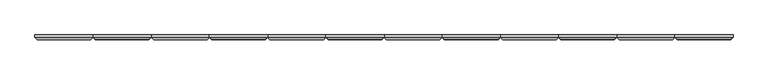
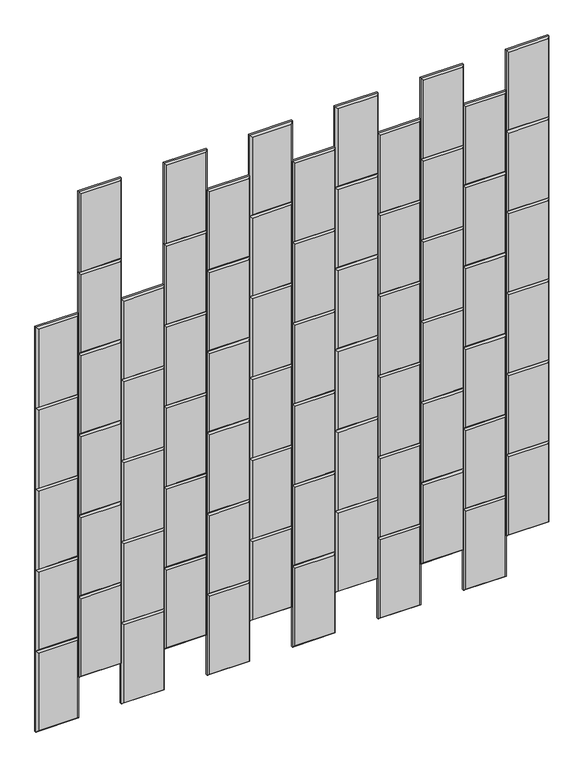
"""IFC4 building model written with IfcOpenShell, lengths in millimetres: proxy geometry, Wall_Wisteria 7.3dm."""

import ifcopenshell
import ifcopenshell.guid

model = None  # the IFC model being written
_history = None  # IfcOwnerHistory: only IFC2X3 demands one
_inside = {}  # id of a spatial element -> (the spatial element, [elements in it])
_under = {}  # id of a project, library or spatial element -> (it, [spatial elements below it])
_declared = {}  # id of a project -> (the project, [libraries it declares])
_typed = {}  # id of a type object -> (the type object, [elements of that type])
_made_of = {}  # id of a material, layer set ... -> (it, [elements and type objects made of it])


def new_model(schema):
    """Start an empty IFC model of exactly this schema.

    Asked for "IFC4X3", IfcOpenShell would pick the latest addendum, in which some entities
    have other attributes; the version numbers below select the first issue.
    IFC2X3 requires an IfcOwnerHistory on every rooted entity: one is made here for all.
    """
    global model, _history
    if schema == "IFC4X3":
        model = ifcopenshell.file(schema_version=(4, 3, 0, 0))
    else:
        model = ifcopenshell.file(schema=schema)
    _inside.clear()
    _under.clear()
    _declared.clear()
    _typed.clear()
    _made_of.clear()
    _history = None
    if model.schema == "IFC2X3":
        org = make("IfcOrganization", Name="unknown")
        user = make(
            "IfcPersonAndOrganization",
            ThePerson=make("IfcPerson", FamilyName="unknown"),
            TheOrganization=org,
        )
        app = make(
            "IfcApplication",
            ApplicationDeveloper=org,
            Version="unknown",
            ApplicationFullName="unknown",
            ApplicationIdentifier="unknown",
        )
        _history = make(
            "IfcOwnerHistory",
            OwningUser=user,
            OwningApplication=app,
            ChangeAction="ADDED",
            CreationDate=0,
        )
    return model


def make(cls, **values):
    """One entity of the class cls with the attributes given. An attribute that is None is left unset."""
    return model.create_entity(
        cls, **{name: value for name, value in values.items() if value is not None}
    )


def rooted(cls, **values):
    """An entity with a GlobalId (a new one), such as an element, a storey or a relation."""
    return make(cls, GlobalId=ifcopenshell.guid.new(), OwnerHistory=_history, **values)


def si_unit(unit_type, name, prefix=None):
    """IfcSIUnit, for example si_unit("LENGTHUNIT", "METRE", prefix="MILLI")."""
    return make("IfcSIUnit", UnitType=unit_type, Prefix=prefix, Name=name)


def assignment(units):
    """IfcUnitAssignment: the units of a project."""
    return None if units is None else make("IfcUnitAssignment", Units=units)


def point(xyz):
    """IfcCartesianPoint."""
    return None if xyz is None else make("IfcCartesianPoint", Coordinates=xyz)


def direction(xyz):
    """IfcDirection."""
    return None if xyz is None else make("IfcDirection", DirectionRatios=xyz)


def frame(location, z_axis=None, x_axis=None):
    """IfcAxis2Placement3D, a coordinate frame: its origin and axes. An axis left out is left unset."""
    return make(
        "IfcAxis2Placement3D",
        Location=point(location),
        Axis=direction(z_axis),
        RefDirection=direction(x_axis),
    )


def origin():
    """The frame at (0, 0, 0) with its axes left unset."""
    return frame((0.0, 0.0, 0.0))


def place(relative_to, where):
    """IfcLocalPlacement: puts the frame where relative to a parent placement (None: the world)."""
    return make(
        "IfcLocalPlacement", PlacementRelTo=relative_to, RelativePlacement=where
    )


def context(
    kind, dimensions, precision=None, world=None, true_north=None, identifier=None
):
    """IfcGeometricRepresentationContext, for example the 3D "Model" context."""
    return make(
        "IfcGeometricRepresentationContext",
        ContextIdentifier=identifier,
        ContextType=kind,
        CoordinateSpaceDimension=dimensions,
        Precision=precision,
        WorldCoordinateSystem=world,
        TrueNorth=true_north,
    )


def project(units=None, contexts=None):
    """IfcProject with its units and contexts."""
    return rooted(
        "IfcProject",
        Name="project",
        RepresentationContexts=contexts,
        UnitsInContext=assignment(units),
    )


def spatial(cls, under=None, at=None, **own):
    """A site, building, storey or space (cls), placed at a placement, below another one or the project."""
    s = rooted(cls, ObjectPlacement=at, **own)
    if under is not None:
        _under.setdefault(under.id(), (under, []))[1].append(s)
    return s


def faces_of(points, faces, orient=None, outer=None):
    """IfcFace entities. A face is a list of loops; a loop is a list of indices into points, from 0.

    orient and outer hold one flag for each loop. By default every Orientation is true, the
    first loop of a face is its IfcFaceOuterBound and the others are IfcFaceBound.
    """
    made = []
    for i, loops in enumerate(faces):
        bounds = []
        for j, loop in enumerate(loops):
            is_outer = j == 0 if outer is None else outer[i][j]
            bounds.append(
                make(
                    "IfcFaceOuterBound" if is_outer else "IfcFaceBound",
                    Bound=make("IfcPolyLoop", Polygon=[points[k] for k in loop]),
                    Orientation=True if orient is None else orient[i][j],
                )
            )
        made.append(make("IfcFace", Bounds=bounds))
    return made


def faceted_brep(points, faces, orient=None, outer=None, voids=None):
    """IfcFacetedBrep: a solid bounded by flat faces; with voids (closed shells), ...WithVoids."""
    shared = [point(p) for p in points]
    hull = make("IfcClosedShell", CfsFaces=faces_of(shared, faces, orient, outer))
    if voids is None:
        return make("IfcFacetedBrep", Outer=hull)
    return make(
        "IfcFacetedBrepWithVoids",
        Outer=hull,
        Voids=[
            make(cls, CfsFaces=faces_of(shared, fs, o, b)) for cls, fs, o, b in voids
        ],
    )


def shape(context_of_items, identifier, shape_type, items):
    """IfcShapeRepresentation: the items that make up one representation, for example the "Body"."""
    return make(
        "IfcShapeRepresentation",
        ContextOfItems=context_of_items,
        RepresentationIdentifier=identifier,
        RepresentationType=shape_type,
        Items=items,
    )


def source(mapping_origin, context_of_items, identifier, shape_type, items):
    """IfcRepresentationMap: a shape defined once, which mapped items show again and again."""
    return make(
        "IfcRepresentationMap",
        MappingOrigin=mapping_origin,
        MappedRepresentation=shape(context_of_items, identifier, shape_type, items),
    )


def transform(
    local_origin,
    x_axis=None,
    y_axis=None,
    z_axis=None,
    scale=None,
    scale2=None,
    scale3=None,
    uniform=True,
):
    """IfcCartesianTransformationOperator3D, or its non-uniform kind. x_axis, y_axis, z_axis: its Axis1, 2, 3."""
    if uniform:
        return make(
            "IfcCartesianTransformationOperator3D",
            Axis1=direction(x_axis),
            Axis2=direction(y_axis),
            LocalOrigin=point(local_origin),
            Scale=scale,
            Axis3=direction(z_axis),
        )
    return make(
        "IfcCartesianTransformationOperator3DnonUniform",
        Axis1=direction(x_axis),
        Axis2=direction(y_axis),
        LocalOrigin=point(local_origin),
        Scale=scale,
        Axis3=direction(z_axis),
        Scale2=scale2,
        Scale3=scale3,
    )


def mapped(mapping_source, mapping_target):
    """IfcMappedItem: shows the shape of a source again, moved by a transform."""
    return make(
        "IfcMappedItem", MappingSource=mapping_source, MappingTarget=mapping_target
    )


def made_of(thing, what):
    """Note that an element or type object is made of a material, layer set ...; save() writes the relation."""
    if what is not None:
        _made_of.setdefault(what.id(), (what, []))[1].append(thing)
    return thing


def element(
    cls,
    number,
    at=None,
    inside=None,
    cuts=None,
    type_object=None,
    material=None,
    context=None,
    identifier="Body",
    shape_type=None,
    held_by="IfcProductDefinitionShape",
    body=None,
    shapes=None,
    **own,
):
    """One element of the class cls, such as IfcWall. Its Tag is "e" and its number.

    at: its placement. inside: the storey or other place that contains it. cuts: it is an
    opening in that element (IfcRelVoidsElement). A single representation is given by context,
    identifier, shape_type and body (its items); several are given by shapes. held_by: the class
    of the entity that holds the representations. save() writes the other relations.
    """
    e = rooted(cls, Tag="e%d" % number, ObjectPlacement=at, **own)
    if body is not None:
        shapes = [shape(context, identifier, shape_type, body)]
    if shapes is not None:
        e.Representation = make(held_by, Representations=shapes)
    if inside is not None:
        _inside.setdefault(inside.id(), (inside, []))[1].append(e)
    if cuts is not None:
        rooted(
            "IfcRelVoidsElement", RelatingBuildingElement=cuts, RelatedOpeningElement=e
        )
    if type_object is not None:
        _typed.setdefault(type_object.id(), (type_object, []))[1].append(e)
    return made_of(e, material)


def aggregate(whole, parts):
    """IfcRelAggregates: a whole, such as a stair, and the parts it consists of."""
    return rooted("IfcRelAggregates", RelatingObject=whole, RelatedObjects=parts)


def save(model, path):
    """Write the relations noted so far, then the file.

    IfcRelAggregates (storeys below a building ...), IfcRelContainedInSpatialStructure (elements
    in a storey), IfcRelDefinesByType, IfcRelAssociatesMaterial and IfcRelDeclares: one each for
    every whole, place, type object, material and project.
    """
    for whole, parts in _under.values():
        aggregate(whole, parts)
    for where, things in _inside.values():
        rooted(
            "IfcRelContainedInSpatialStructure",
            RelatedElements=things,
            RelatingStructure=where,
        )
    for kind, things in _typed.values():
        rooted("IfcRelDefinesByType", RelatedObjects=things, RelatingType=kind)
    for what, things in _made_of.values():
        rooted("IfcRelAssociatesMaterial", RelatedObjects=things, RelatingMaterial=what)
    for by, libraries in _declared.values():
        rooted("IfcRelDeclares", RelatingContext=by, RelatedDefinitions=libraries)
    model.write(path)


def generic_models_26ef5471(model_context):
    return source(origin(), model_context, "Body", "Brep", [
        faceted_brep([(10845.0096042, 12.0, 209.2), (10845.0096042, 12.0, 514.0), (10997.4096042, 12.0, 514.0), (10997.4096042, 12.0, 209.2), (10845.0096042, 6.0, 209.2), (10997.4096042, 6.0, 209.2), (10997.4096042, 6.0, 514.0), (10845.0096042, 6.0, 514.0), (10991.4096042, 0.0, 508.0), (10851.0096042, 0.0, 508.0), (10851.0096042, 0.0, 215.2), (10991.4096042, 0.0, 215.2)], [[[0, 1, 2, 3]], [[4, 0, 3, 5]], [[5, 3, 2, 6]], [[6, 2, 1, 7]], [[7, 1, 0, 4]], [[8, 9, 10, 11]], [[4, 5, 11, 10]], [[5, 6, 8, 11]], [[6, 7, 9, 8]], [[7, 4, 10, 9]]]),
        faceted_brep([(10540.2096042, 12.0, 209.2), (10540.2096042, 12.0, 514.0), (10692.6096042, 12.0, 514.0), (10692.6096042, 12.0, 209.2), (10540.2096042, 6.0, 209.2), (10692.6096042, 6.0, 209.2), (10692.6096042, 6.0, 514.0), (10540.2096042, 6.0, 514.0), (10686.6096042, 0.0, 508.0), (10546.2096042, 0.0, 508.0), (10546.2096042, 0.0, 215.2), (10686.6096042, 0.0, 215.2)], [[[0, 1, 2, 3]], [[4, 0, 3, 5]], [[5, 3, 2, 6]], [[6, 2, 1, 7]], [[7, 1, 0, 4]], [[8, 9, 10, 11]], [[4, 5, 11, 10]], [[5, 6, 8, 11]], [[6, 7, 9, 8]], [[7, 4, 10, 9]]]),
        faceted_brep([(10692.6096042, 12.0, 56.8), (10692.6096042, 12.0, 361.6), (10845.0096042, 12.0, 361.6), (10845.0096042, 12.0, 56.8), (10692.6096042, 6.0, 56.8), (10845.0096042, 6.0, 56.8), (10845.0096042, 6.0, 361.6), (10692.6096042, 6.0, 361.6), (10839.0096042, 0.0, 355.6), (10698.6096042, 0.0, 355.6), (10698.6096042, 0.0, 62.8), (10839.0096042, 0.0, 62.8)], [[[0, 1, 2, 3]], [[4, 0, 3, 5]], [[5, 3, 2, 6]], [[6, 2, 1, 7]], [[7, 1, 0, 4]], [[8, 9, 10, 11]], [[4, 5, 11, 10]], [[5, 6, 8, 11]], [[6, 7, 9, 8]], [[7, 4, 10, 9]]]),
        faceted_brep([(10235.4096042, 12.0, 209.2), (10235.4096042, 12.0, 514.0), (10387.8096042, 12.0, 514.0), (10387.8096042, 12.0, 209.2), (10235.4096042, 6.0, 209.2), (10387.8096042, 6.0, 209.2), (10387.8096042, 6.0, 514.0), (10235.4096042, 6.0, 514.0), (10381.8096042, 0.0, 508.0), (10241.4096042, 0.0, 508.0), (10241.4096042, 0.0, 215.2), (10381.8096042, 0.0, 215.2)], [[[0, 1, 2, 3]], [[4, 0, 3, 5]], [[5, 3, 2, 6]], [[6, 2, 1, 7]], [[7, 1, 0, 4]], [[8, 9, 10, 11]], [[4, 5, 11, 10]], [[5, 6, 8, 11]], [[6, 7, 9, 8]], [[7, 4, 10, 9]]]),
        faceted_brep([(10387.8096042, 12.0, 56.8), (10387.8096042, 12.0, 361.6), (10540.2096042, 12.0, 361.6), (10540.2096042, 12.0, 56.8), (10387.8096042, 6.0, 56.8), (10540.2096042, 6.0, 56.8), (10540.2096042, 6.0, 361.6), (10387.8096042, 6.0, 361.6), (10534.2096042, 0.0, 355.6), (10393.8096042, 0.0, 355.6), (10393.8096042, 0.0, 62.8), (10534.2096042, 0.0, 62.8)], [[[0, 1, 2, 3]], [[4, 0, 3, 5]], [[5, 3, 2, 6]], [[6, 2, 1, 7]], [[7, 1, 0, 4]], [[8, 9, 10, 11]], [[4, 5, 11, 10]], [[5, 6, 8, 11]], [[6, 7, 9, 8]], [[7, 4, 10, 9]]]),
        faceted_brep([(9930.6096042, 12.0, 209.2), (9930.6096042, 12.0, 514.0), (10083.0096042, 12.0, 514.0), (10083.0096042, 12.0, 209.2), (9930.6096042, 6.0, 209.2), (10083.0096042, 6.0, 209.2), (10083.0096042, 6.0, 514.0), (9930.6096042, 6.0, 514.0), (10077.0096042, 0.0, 508.0), (9936.6096042, 0.0, 508.0), (9936.6096042, 0.0, 215.2), (10077.0096042, 0.0, 215.2)], [[[0, 1, 2, 3]], [[4, 0, 3, 5]], [[5, 3, 2, 6]], [[6, 2, 1, 7]], [[7, 1, 0, 4]], [[8, 9, 10, 11]], [[4, 5, 11, 10]], [[5, 6, 8, 11]], [[6, 7, 9, 8]], [[7, 4, 10, 9]]]),
        faceted_brep([(10083.0096042, 12.0, 56.8), (10083.0096042, 12.0, 361.6), (10235.4096042, 12.0, 361.6), (10235.4096042, 12.0, 56.8), (10083.0096042, 6.0, 56.8), (10235.4096042, 6.0, 56.8), (10235.4096042, 6.0, 361.6), (10083.0096042, 6.0, 361.6), (10229.4096042, 0.0, 355.6), (10089.0096042, 0.0, 355.6), (10089.0096042, 0.0, 62.8), (10229.4096042, 0.0, 62.8)], [[[0, 1, 2, 3]], [[4, 0, 3, 5]], [[5, 3, 2, 6]], [[6, 2, 1, 7]], [[7, 1, 0, 4]], [[8, 9, 10, 11]], [[4, 5, 11, 10]], [[5, 6, 8, 11]], [[6, 7, 9, 8]], [[7, 4, 10, 9]]]),
        faceted_brep([(9625.8096042, 12.0, 209.2), (9625.8096042, 12.0, 514.0), (9778.2096042, 12.0, 514.0), (9778.2096042, 12.0, 209.2), (9625.8096042, 6.0, 209.2), (9778.2096042, 6.0, 209.2), (9778.2096042, 6.0, 514.0), (9625.8096042, 6.0, 514.0), (9772.2096042, 0.0, 508.0), (9631.8096042, 0.0, 508.0), (9631.8096042, 0.0, 215.2), (9772.2096042, 0.0, 215.2)], [[[0, 1, 2, 3]], [[4, 0, 3, 5]], [[5, 3, 2, 6]], [[6, 2, 1, 7]], [[7, 1, 0, 4]], [[8, 9, 10, 11]], [[4, 5, 11, 10]], [[5, 6, 8, 11]], [[6, 7, 9, 8]], [[7, 4, 10, 9]]]),
        faceted_brep([(9778.2096042, 12.0, 56.8), (9778.2096042, 12.0, 361.6), (9930.6096042, 12.0, 361.6), (9930.6096042, 12.0, 56.8), (9778.2096042, 6.0, 56.8), (9930.6096042, 6.0, 56.8), (9930.6096042, 6.0, 361.6), (9778.2096042, 6.0, 361.6), (9924.6096042, 0.0, 355.6), (9784.2096042, 0.0, 355.6), (9784.2096042, 0.0, 62.8), (9924.6096042, 0.0, 62.8)], [[[0, 1, 2, 3]], [[4, 0, 3, 5]], [[5, 3, 2, 6]], [[6, 2, 1, 7]], [[7, 1, 0, 4]], [[8, 9, 10, 11]], [[4, 5, 11, 10]], [[5, 6, 8, 11]], [[6, 7, 9, 8]], [[7, 4, 10, 9]]]),
        faceted_brep([(9321.0096042, 12.0, 209.2), (9321.0096042, 12.0, 514.0), (9473.4096042, 12.0, 514.0), (9473.4096042, 12.0, 209.2), (9321.0096042, 6.0, 209.2), (9473.4096042, 6.0, 209.2), (9473.4096042, 6.0, 514.0), (9321.0096042, 6.0, 514.0), (9467.4096042, 0.0, 508.0), (9327.0096042, 0.0, 508.0), (9327.0096042, 0.0, 215.2), (9467.4096042, 0.0, 215.2)], [[[0, 1, 2, 3]], [[4, 0, 3, 5]], [[5, 3, 2, 6]], [[6, 2, 1, 7]], [[7, 1, 0, 4]], [[8, 9, 10, 11]], [[4, 5, 11, 10]], [[5, 6, 8, 11]], [[6, 7, 9, 8]], [[7, 4, 10, 9]]]),
        faceted_brep([(9473.4096042, 12.0, 56.8), (9473.4096042, 12.0, 361.6), (9625.8096042, 12.0, 361.6), (9625.8096042, 12.0, 56.8), (9473.4096042, 6.0, 56.8), (9625.8096042, 6.0, 56.8), (9625.8096042, 6.0, 361.6), (9473.4096042, 6.0, 361.6), (9619.8096042, 0.0, 355.6), (9479.4096042, 0.0, 355.6), (9479.4096042, 0.0, 62.8), (9619.8096042, 0.0, 62.8)], [[[0, 1, 2, 3]], [[4, 0, 3, 5]], [[5, 3, 2, 6]], [[6, 2, 1, 7]], [[7, 1, 0, 4]], [[8, 9, 10, 11]], [[4, 5, 11, 10]], [[5, 6, 8, 11]], [[6, 7, 9, 8]], [[7, 4, 10, 9]]]),
        faceted_brep([(9168.6096042, 12.0, 56.8), (9168.6096042, 12.0, 361.6), (9321.0096042, 12.0, 361.6), (9321.0096042, 12.0, 56.8), (9168.6096042, 6.0, 56.8), (9321.0096042, 6.0, 56.8), (9321.0096042, 6.0, 361.6), (9168.6096042, 6.0, 361.6), (9315.0096042, 0.0, 355.6), (9174.6096042, 0.0, 355.6), (9174.6096042, 0.0, 62.8), (9315.0096042, 0.0, 62.8)], [[[0, 1, 2, 3]], [[4, 0, 3, 5]], [[5, 3, 2, 6]], [[6, 2, 1, 7]], [[7, 1, 0, 4]], [[8, 9, 10, 11]], [[4, 5, 11, 10]], [[5, 6, 8, 11]], [[6, 7, 9, 8]], [[7, 4, 10, 9]]]),
        faceted_brep([(10845.0096042, 12.0, 514.0), (10845.0096042, 12.0, 818.8), (10997.4096042, 12.0, 818.8), (10997.4096042, 12.0, 514.0), (10845.0096042, 6.0, 514.0), (10997.4096042, 6.0, 514.0), (10997.4096042, 6.0, 818.8), (10845.0096042, 6.0, 818.8), (10991.4096042, 0.0, 812.8), (10851.0096042, 0.0, 812.8), (10851.0096042, 0.0, 520.0), (10991.4096042, 0.0, 520.0)], [[[0, 1, 2, 3]], [[4, 0, 3, 5]], [[5, 3, 2, 6]], [[6, 2, 1, 7]], [[7, 1, 0, 4]], [[8, 9, 10, 11]], [[4, 5, 11, 10]], [[5, 6, 8, 11]], [[6, 7, 9, 8]], [[7, 4, 10, 9]]]),
        faceted_brep([(10540.2096042, 12.0, 514.0), (10540.2096042, 12.0, 818.8), (10692.6096042, 12.0, 818.8), (10692.6096042, 12.0, 514.0), (10540.2096042, 6.0, 514.0), (10692.6096042, 6.0, 514.0), (10692.6096042, 6.0, 818.8), (10540.2096042, 6.0, 818.8), (10686.6096042, 0.0, 812.8), (10546.2096042, 0.0, 812.8), (10546.2096042, 0.0, 520.0), (10686.6096042, 0.0, 520.0)], [[[0, 1, 2, 3]], [[4, 0, 3, 5]], [[5, 3, 2, 6]], [[6, 2, 1, 7]], [[7, 1, 0, 4]], [[8, 9, 10, 11]], [[4, 5, 11, 10]], [[5, 6, 8, 11]], [[6, 7, 9, 8]], [[7, 4, 10, 9]]]),
        faceted_brep([(10692.6096042, 12.0, 361.6), (10692.6096042, 12.0, 666.4), (10845.0096042, 12.0, 666.4), (10845.0096042, 12.0, 361.6), (10692.6096042, 6.0, 361.6), (10845.0096042, 6.0, 361.6), (10845.0096042, 6.0, 666.4), (10692.6096042, 6.0, 666.4), (10839.0096042, 0.0, 660.4), (10698.6096042, 0.0, 660.4), (10698.6096042, 0.0, 367.6), (10839.0096042, 0.0, 367.6)], [[[0, 1, 2, 3]], [[4, 0, 3, 5]], [[5, 3, 2, 6]], [[6, 2, 1, 7]], [[7, 1, 0, 4]], [[8, 9, 10, 11]], [[4, 5, 11, 10]], [[5, 6, 8, 11]], [[6, 7, 9, 8]], [[7, 4, 10, 9]]]),
        faceted_brep([(10235.4096042, 12.0, 514.0), (10235.4096042, 12.0, 818.8), (10387.8096042, 12.0, 818.8), (10387.8096042, 12.0, 514.0), (10235.4096042, 6.0, 514.0), (10387.8096042, 6.0, 514.0), (10387.8096042, 6.0, 818.8), (10235.4096042, 6.0, 818.8), (10381.8096042, 0.0, 812.8), (10241.4096042, 0.0, 812.8), (10241.4096042, 0.0, 520.0), (10381.8096042, 0.0, 520.0)], [[[0, 1, 2, 3]], [[4, 0, 3, 5]], [[5, 3, 2, 6]], [[6, 2, 1, 7]], [[7, 1, 0, 4]], [[8, 9, 10, 11]], [[4, 5, 11, 10]], [[5, 6, 8, 11]], [[6, 7, 9, 8]], [[7, 4, 10, 9]]]),
        faceted_brep([(10387.8096042, 12.0, 361.6), (10387.8096042, 12.0, 666.4), (10540.2096042, 12.0, 666.4), (10540.2096042, 12.0, 361.6), (10387.8096042, 6.0, 361.6), (10540.2096042, 6.0, 361.6), (10540.2096042, 6.0, 666.4), (10387.8096042, 6.0, 666.4), (10534.2096042, 0.0, 660.4), (10393.8096042, 0.0, 660.4), (10393.8096042, 0.0, 367.6), (10534.2096042, 0.0, 367.6)], [[[0, 1, 2, 3]], [[4, 0, 3, 5]], [[5, 3, 2, 6]], [[6, 2, 1, 7]], [[7, 1, 0, 4]], [[8, 9, 10, 11]], [[4, 5, 11, 10]], [[5, 6, 8, 11]], [[6, 7, 9, 8]], [[7, 4, 10, 9]]]),
        faceted_brep([(9930.6096042, 12.0, 514.0), (9930.6096042, 12.0, 818.8), (10083.0096042, 12.0, 818.8), (10083.0096042, 12.0, 514.0), (9930.6096042, 6.0, 514.0), (10083.0096042, 6.0, 514.0), (10083.0096042, 6.0, 818.8), (9930.6096042, 6.0, 818.8), (10077.0096042, 0.0, 812.8), (9936.6096042, 0.0, 812.8), (9936.6096042, 0.0, 520.0), (10077.0096042, 0.0, 520.0)], [[[0, 1, 2, 3]], [[4, 0, 3, 5]], [[5, 3, 2, 6]], [[6, 2, 1, 7]], [[7, 1, 0, 4]], [[8, 9, 10, 11]], [[4, 5, 11, 10]], [[5, 6, 8, 11]], [[6, 7, 9, 8]], [[7, 4, 10, 9]]]),
        faceted_brep([(10083.0096042, 12.0, 361.6), (10083.0096042, 12.0, 666.4), (10235.4096042, 12.0, 666.4), (10235.4096042, 12.0, 361.6), (10083.0096042, 6.0, 361.6), (10235.4096042, 6.0, 361.6), (10235.4096042, 6.0, 666.4), (10083.0096042, 6.0, 666.4), (10229.4096042, 0.0, 660.4), (10089.0096042, 0.0, 660.4), (10089.0096042, 0.0, 367.6), (10229.4096042, 0.0, 367.6)], [[[0, 1, 2, 3]], [[4, 0, 3, 5]], [[5, 3, 2, 6]], [[6, 2, 1, 7]], [[7, 1, 0, 4]], [[8, 9, 10, 11]], [[4, 5, 11, 10]], [[5, 6, 8, 11]], [[6, 7, 9, 8]], [[7, 4, 10, 9]]]),
        faceted_brep([(9625.8096042, 12.0, 514.0), (9625.8096042, 12.0, 818.8), (9778.2096042, 12.0, 818.8), (9778.2096042, 12.0, 514.0), (9625.8096042, 6.0, 514.0), (9778.2096042, 6.0, 514.0), (9778.2096042, 6.0, 818.8), (9625.8096042, 6.0, 818.8), (9772.2096042, 0.0, 812.8), (9631.8096042, 0.0, 812.8), (9631.8096042, 0.0, 520.0), (9772.2096042, 0.0, 520.0)], [[[0, 1, 2, 3]], [[4, 0, 3, 5]], [[5, 3, 2, 6]], [[6, 2, 1, 7]], [[7, 1, 0, 4]], [[8, 9, 10, 11]], [[4, 5, 11, 10]], [[5, 6, 8, 11]], [[6, 7, 9, 8]], [[7, 4, 10, 9]]]),
        faceted_brep([(9778.2096042, 12.0, 361.6), (9778.2096042, 12.0, 666.4), (9930.6096042, 12.0, 666.4), (9930.6096042, 12.0, 361.6), (9778.2096042, 6.0, 361.6), (9930.6096042, 6.0, 361.6), (9930.6096042, 6.0, 666.4), (9778.2096042, 6.0, 666.4), (9924.6096042, 0.0, 660.4), (9784.2096042, 0.0, 660.4), (9784.2096042, 0.0, 367.6), (9924.6096042, 0.0, 367.6)], [[[0, 1, 2, 3]], [[4, 0, 3, 5]], [[5, 3, 2, 6]], [[6, 2, 1, 7]], [[7, 1, 0, 4]], [[8, 9, 10, 11]], [[4, 5, 11, 10]], [[5, 6, 8, 11]], [[6, 7, 9, 8]], [[7, 4, 10, 9]]]),
        faceted_brep([(9321.0096042, 12.0, 514.0), (9321.0096042, 12.0, 818.8), (9473.4096042, 12.0, 818.8), (9473.4096042, 12.0, 514.0), (9321.0096042, 6.0, 514.0), (9473.4096042, 6.0, 514.0), (9473.4096042, 6.0, 818.8), (9321.0096042, 6.0, 818.8), (9467.4096042, 0.0, 812.8), (9327.0096042, 0.0, 812.8), (9327.0096042, 0.0, 520.0), (9467.4096042, 0.0, 520.0)], [[[0, 1, 2, 3]], [[4, 0, 3, 5]], [[5, 3, 2, 6]], [[6, 2, 1, 7]], [[7, 1, 0, 4]], [[8, 9, 10, 11]], [[4, 5, 11, 10]], [[5, 6, 8, 11]], [[6, 7, 9, 8]], [[7, 4, 10, 9]]]),
        faceted_brep([(9473.4096042, 12.0, 361.6), (9473.4096042, 12.0, 666.4), (9625.8096042, 12.0, 666.4), (9625.8096042, 12.0, 361.6), (9473.4096042, 6.0, 361.6), (9625.8096042, 6.0, 361.6), (9625.8096042, 6.0, 666.4), (9473.4096042, 6.0, 666.4), (9619.8096042, 0.0, 660.4), (9479.4096042, 0.0, 660.4), (9479.4096042, 0.0, 367.6), (9619.8096042, 0.0, 367.6)], [[[0, 1, 2, 3]], [[4, 0, 3, 5]], [[5, 3, 2, 6]], [[6, 2, 1, 7]], [[7, 1, 0, 4]], [[8, 9, 10, 11]], [[4, 5, 11, 10]], [[5, 6, 8, 11]], [[6, 7, 9, 8]], [[7, 4, 10, 9]]]),
        faceted_brep([(9168.6096042, 12.0, 361.6), (9168.6096042, 12.0, 666.4), (9321.0096042, 12.0, 666.4), (9321.0096042, 12.0, 361.6), (9168.6096042, 6.0, 361.6), (9321.0096042, 6.0, 361.6), (9321.0096042, 6.0, 666.4), (9168.6096042, 6.0, 666.4), (9315.0096042, 0.0, 660.4), (9174.6096042, 0.0, 660.4), (9174.6096042, 0.0, 367.6), (9315.0096042, 0.0, 367.6)], [[[0, 1, 2, 3]], [[4, 0, 3, 5]], [[5, 3, 2, 6]], [[6, 2, 1, 7]], [[7, 1, 0, 4]], [[8, 9, 10, 11]], [[4, 5, 11, 10]], [[5, 6, 8, 11]], [[6, 7, 9, 8]], [[7, 4, 10, 9]]]),
        faceted_brep([(10845.0096042, 12.0, 818.8), (10845.0096042, 12.0, 1123.6), (10997.4096042, 12.0, 1123.6), (10997.4096042, 12.0, 818.8), (10845.0096042, 6.0, 818.8), (10997.4096042, 6.0, 818.8), (10997.4096042, 6.0, 1123.6), (10845.0096042, 6.0, 1123.6), (10991.4096042, 0.0, 1117.6), (10851.0096042, 0.0, 1117.6), (10851.0096042, 0.0, 824.8), (10991.4096042, 0.0, 824.8)], [[[0, 1, 2, 3]], [[4, 0, 3, 5]], [[5, 3, 2, 6]], [[6, 2, 1, 7]], [[7, 1, 0, 4]], [[8, 9, 10, 11]], [[4, 5, 11, 10]], [[5, 6, 8, 11]], [[6, 7, 9, 8]], [[7, 4, 10, 9]]]),
        faceted_brep([(10540.2096042, 12.0, 818.8), (10540.2096042, 12.0, 1123.6), (10692.6096042, 12.0, 1123.6), (10692.6096042, 12.0, 818.8), (10540.2096042, 6.0, 818.8), (10692.6096042, 6.0, 818.8), (10692.6096042, 6.0, 1123.6), (10540.2096042, 6.0, 1123.6), (10686.6096042, 0.0, 1117.6), (10546.2096042, 0.0, 1117.6), (10546.2096042, 0.0, 824.8), (10686.6096042, 0.0, 824.8)], [[[0, 1, 2, 3]], [[4, 0, 3, 5]], [[5, 3, 2, 6]], [[6, 2, 1, 7]], [[7, 1, 0, 4]], [[8, 9, 10, 11]], [[4, 5, 11, 10]], [[5, 6, 8, 11]], [[6, 7, 9, 8]], [[7, 4, 10, 9]]]),
        faceted_brep([(10692.6096042, 12.0, 666.4), (10692.6096042, 12.0, 971.2), (10845.0096042, 12.0, 971.2), (10845.0096042, 12.0, 666.4), (10692.6096042, 6.0, 666.4), (10845.0096042, 6.0, 666.4), (10845.0096042, 6.0, 971.2), (10692.6096042, 6.0, 971.2), (10839.0096042, 0.0, 965.2), (10698.6096042, 0.0, 965.2), (10698.6096042, 0.0, 672.4), (10839.0096042, 0.0, 672.4)], [[[0, 1, 2, 3]], [[4, 0, 3, 5]], [[5, 3, 2, 6]], [[6, 2, 1, 7]], [[7, 1, 0, 4]], [[8, 9, 10, 11]], [[4, 5, 11, 10]], [[5, 6, 8, 11]], [[6, 7, 9, 8]], [[7, 4, 10, 9]]]),
        faceted_brep([(10235.4096042, 12.0, 818.8), (10235.4096042, 12.0, 1123.6), (10387.8096042, 12.0, 1123.6), (10387.8096042, 12.0, 818.8), (10235.4096042, 6.0, 818.8), (10387.8096042, 6.0, 818.8), (10387.8096042, 6.0, 1123.6), (10235.4096042, 6.0, 1123.6), (10381.8096042, 0.0, 1117.6), (10241.4096042, 0.0, 1117.6), (10241.4096042, 0.0, 824.8), (10381.8096042, 0.0, 824.8)], [[[0, 1, 2, 3]], [[4, 0, 3, 5]], [[5, 3, 2, 6]], [[6, 2, 1, 7]], [[7, 1, 0, 4]], [[8, 9, 10, 11]], [[4, 5, 11, 10]], [[5, 6, 8, 11]], [[6, 7, 9, 8]], [[7, 4, 10, 9]]]),
        faceted_brep([(10387.8096042, 12.0, 666.4), (10387.8096042, 12.0, 971.2), (10540.2096042, 12.0, 971.2), (10540.2096042, 12.0, 666.4), (10387.8096042, 6.0, 666.4), (10540.2096042, 6.0, 666.4), (10540.2096042, 6.0, 971.2), (10387.8096042, 6.0, 971.2), (10534.2096042, 0.0, 965.2), (10393.8096042, 0.0, 965.2), (10393.8096042, 0.0, 672.4), (10534.2096042, 0.0, 672.4)], [[[0, 1, 2, 3]], [[4, 0, 3, 5]], [[5, 3, 2, 6]], [[6, 2, 1, 7]], [[7, 1, 0, 4]], [[8, 9, 10, 11]], [[4, 5, 11, 10]], [[5, 6, 8, 11]], [[6, 7, 9, 8]], [[7, 4, 10, 9]]]),
        faceted_brep([(9930.6096042, 12.0, 818.8), (9930.6096042, 12.0, 1123.6), (10083.0096042, 12.0, 1123.6), (10083.0096042, 12.0, 818.8), (9930.6096042, 6.0, 818.8), (10083.0096042, 6.0, 818.8), (10083.0096042, 6.0, 1123.6), (9930.6096042, 6.0, 1123.6), (10077.0096042, 0.0, 1117.6), (9936.6096042, 0.0, 1117.6), (9936.6096042, 0.0, 824.8), (10077.0096042, 0.0, 824.8)], [[[0, 1, 2, 3]], [[4, 0, 3, 5]], [[5, 3, 2, 6]], [[6, 2, 1, 7]], [[7, 1, 0, 4]], [[8, 9, 10, 11]], [[4, 5, 11, 10]], [[5, 6, 8, 11]], [[6, 7, 9, 8]], [[7, 4, 10, 9]]]),
        faceted_brep([(10083.0096042, 12.0, 666.4), (10083.0096042, 12.0, 971.2), (10235.4096042, 12.0, 971.2), (10235.4096042, 12.0, 666.4), (10083.0096042, 6.0, 666.4), (10235.4096042, 6.0, 666.4), (10235.4096042, 6.0, 971.2), (10083.0096042, 6.0, 971.2), (10229.4096042, 0.0, 965.2), (10089.0096042, 0.0, 965.2), (10089.0096042, 0.0, 672.4), (10229.4096042, 0.0, 672.4)], [[[0, 1, 2, 3]], [[4, 0, 3, 5]], [[5, 3, 2, 6]], [[6, 2, 1, 7]], [[7, 1, 0, 4]], [[8, 9, 10, 11]], [[4, 5, 11, 10]], [[5, 6, 8, 11]], [[6, 7, 9, 8]], [[7, 4, 10, 9]]]),
        faceted_brep([(9625.8096042, 12.0, 818.8), (9625.8096042, 12.0, 1123.6), (9778.2096042, 12.0, 1123.6), (9778.2096042, 12.0, 818.8), (9625.8096042, 6.0, 818.8), (9778.2096042, 6.0, 818.8), (9778.2096042, 6.0, 1123.6), (9625.8096042, 6.0, 1123.6), (9772.2096042, 0.0, 1117.6), (9631.8096042, 0.0, 1117.6), (9631.8096042, 0.0, 824.8), (9772.2096042, 0.0, 824.8)], [[[0, 1, 2, 3]], [[4, 0, 3, 5]], [[5, 3, 2, 6]], [[6, 2, 1, 7]], [[7, 1, 0, 4]], [[8, 9, 10, 11]], [[4, 5, 11, 10]], [[5, 6, 8, 11]], [[6, 7, 9, 8]], [[7, 4, 10, 9]]]),
        faceted_brep([(9778.2096042, 12.0, 666.4), (9778.2096042, 12.0, 971.2), (9930.6096042, 12.0, 971.2), (9930.6096042, 12.0, 666.4), (9778.2096042, 6.0, 666.4), (9930.6096042, 6.0, 666.4), (9930.6096042, 6.0, 971.2), (9778.2096042, 6.0, 971.2), (9924.6096042, 0.0, 965.2), (9784.2096042, 0.0, 965.2), (9784.2096042, 0.0, 672.4), (9924.6096042, 0.0, 672.4)], [[[0, 1, 2, 3]], [[4, 0, 3, 5]], [[5, 3, 2, 6]], [[6, 2, 1, 7]], [[7, 1, 0, 4]], [[8, 9, 10, 11]], [[4, 5, 11, 10]], [[5, 6, 8, 11]], [[6, 7, 9, 8]], [[7, 4, 10, 9]]]),
        faceted_brep([(9321.0096042, 12.0, 818.8), (9321.0096042, 12.0, 1123.6), (9473.4096042, 12.0, 1123.6), (9473.4096042, 12.0, 818.8), (9321.0096042, 6.0, 818.8), (9473.4096042, 6.0, 818.8), (9473.4096042, 6.0, 1123.6), (9321.0096042, 6.0, 1123.6), (9467.4096042, 0.0, 1117.6), (9327.0096042, 0.0, 1117.6), (9327.0096042, 0.0, 824.8), (9467.4096042, 0.0, 824.8)], [[[0, 1, 2, 3]], [[4, 0, 3, 5]], [[5, 3, 2, 6]], [[6, 2, 1, 7]], [[7, 1, 0, 4]], [[8, 9, 10, 11]], [[4, 5, 11, 10]], [[5, 6, 8, 11]], [[6, 7, 9, 8]], [[7, 4, 10, 9]]]),
        faceted_brep([(9473.4096042, 12.0, 666.4), (9473.4096042, 12.0, 971.2), (9625.8096042, 12.0, 971.2), (9625.8096042, 12.0, 666.4), (9473.4096042, 6.0, 666.4), (9625.8096042, 6.0, 666.4), (9625.8096042, 6.0, 971.2), (9473.4096042, 6.0, 971.2), (9619.8096042, 0.0, 965.2), (9479.4096042, 0.0, 965.2), (9479.4096042, 0.0, 672.4), (9619.8096042, 0.0, 672.4)], [[[0, 1, 2, 3]], [[4, 0, 3, 5]], [[5, 3, 2, 6]], [[6, 2, 1, 7]], [[7, 1, 0, 4]], [[8, 9, 10, 11]], [[4, 5, 11, 10]], [[5, 6, 8, 11]], [[6, 7, 9, 8]], [[7, 4, 10, 9]]]),
        faceted_brep([(9168.6096042, 12.0, 666.4), (9168.6096042, 12.0, 971.2), (9321.0096042, 12.0, 971.2), (9321.0096042, 12.0, 666.4), (9168.6096042, 6.0, 666.4), (9321.0096042, 6.0, 666.4), (9321.0096042, 6.0, 971.2), (9168.6096042, 6.0, 971.2), (9315.0096042, 0.0, 965.2), (9174.6096042, 0.0, 965.2), (9174.6096042, 0.0, 672.4), (9315.0096042, 0.0, 672.4)], [[[0, 1, 2, 3]], [[4, 0, 3, 5]], [[5, 3, 2, 6]], [[6, 2, 1, 7]], [[7, 1, 0, 4]], [[8, 9, 10, 11]], [[4, 5, 11, 10]], [[5, 6, 8, 11]], [[6, 7, 9, 8]], [[7, 4, 10, 9]]]),
        faceted_brep([(10845.0096042, 12.0, 1123.6), (10845.0096042, 12.0, 1428.4), (10997.4096042, 12.0, 1428.4), (10997.4096042, 12.0, 1123.6), (10845.0096042, 6.0, 1123.6), (10997.4096042, 6.0, 1123.6), (10997.4096042, 6.0, 1428.4), (10845.0096042, 6.0, 1428.4), (10991.4096042, 0.0, 1422.4), (10851.0096042, 0.0, 1422.4), (10851.0096042, 0.0, 1129.6), (10991.4096042, 0.0, 1129.6)], [[[0, 1, 2, 3]], [[4, 0, 3, 5]], [[5, 3, 2, 6]], [[6, 2, 1, 7]], [[7, 1, 0, 4]], [[8, 9, 10, 11]], [[4, 5, 11, 10]], [[5, 6, 8, 11]], [[6, 7, 9, 8]], [[7, 4, 10, 9]]]),
        faceted_brep([(10540.2096042, 12.0, 1123.6), (10540.2096042, 12.0, 1428.4), (10692.6096042, 12.0, 1428.4), (10692.6096042, 12.0, 1123.6), (10540.2096042, 6.0, 1123.6), (10692.6096042, 6.0, 1123.6), (10692.6096042, 6.0, 1428.4), (10540.2096042, 6.0, 1428.4), (10686.6096042, 0.0, 1422.4), (10546.2096042, 0.0, 1422.4), (10546.2096042, 0.0, 1129.6), (10686.6096042, 0.0, 1129.6)], [[[0, 1, 2, 3]], [[4, 0, 3, 5]], [[5, 3, 2, 6]], [[6, 2, 1, 7]], [[7, 1, 0, 4]], [[8, 9, 10, 11]], [[4, 5, 11, 10]], [[5, 6, 8, 11]], [[6, 7, 9, 8]], [[7, 4, 10, 9]]]),
        faceted_brep([(10692.6096042, 12.0, 971.2), (10692.6096042, 12.0, 1276.0), (10845.0096042, 12.0, 1276.0), (10845.0096042, 12.0, 971.2), (10692.6096042, 6.0, 971.2), (10845.0096042, 6.0, 971.2), (10845.0096042, 6.0, 1276.0), (10692.6096042, 6.0, 1276.0), (10839.0096042, 0.0, 1270.0), (10698.6096042, 0.0, 1270.0), (10698.6096042, 0.0, 977.2), (10839.0096042, 0.0, 977.2)], [[[0, 1, 2, 3]], [[4, 0, 3, 5]], [[5, 3, 2, 6]], [[6, 2, 1, 7]], [[7, 1, 0, 4]], [[8, 9, 10, 11]], [[4, 5, 11, 10]], [[5, 6, 8, 11]], [[6, 7, 9, 8]], [[7, 4, 10, 9]]]),
        faceted_brep([(10235.4096042, 12.0, 1123.6), (10235.4096042, 12.0, 1428.4), (10387.8096042, 12.0, 1428.4), (10387.8096042, 12.0, 1123.6), (10235.4096042, 6.0, 1123.6), (10387.8096042, 6.0, 1123.6), (10387.8096042, 6.0, 1428.4), (10235.4096042, 6.0, 1428.4), (10381.8096042, 0.0, 1422.4), (10241.4096042, 0.0, 1422.4), (10241.4096042, 0.0, 1129.6), (10381.8096042, 0.0, 1129.6)], [[[0, 1, 2, 3]], [[4, 0, 3, 5]], [[5, 3, 2, 6]], [[6, 2, 1, 7]], [[7, 1, 0, 4]], [[8, 9, 10, 11]], [[4, 5, 11, 10]], [[5, 6, 8, 11]], [[6, 7, 9, 8]], [[7, 4, 10, 9]]]),
        faceted_brep([(10387.8096042, 12.0, 971.2), (10387.8096042, 12.0, 1276.0), (10540.2096042, 12.0, 1276.0), (10540.2096042, 12.0, 971.2), (10387.8096042, 6.0, 971.2), (10540.2096042, 6.0, 971.2), (10540.2096042, 6.0, 1276.0), (10387.8096042, 6.0, 1276.0), (10534.2096042, 0.0, 1270.0), (10393.8096042, 0.0, 1270.0), (10393.8096042, 0.0, 977.2), (10534.2096042, 0.0, 977.2)], [[[0, 1, 2, 3]], [[4, 0, 3, 5]], [[5, 3, 2, 6]], [[6, 2, 1, 7]], [[7, 1, 0, 4]], [[8, 9, 10, 11]], [[4, 5, 11, 10]], [[5, 6, 8, 11]], [[6, 7, 9, 8]], [[7, 4, 10, 9]]]),
        faceted_brep([(9930.6096042, 12.0, 1123.6), (9930.6096042, 12.0, 1428.4), (10083.0096042, 12.0, 1428.4), (10083.0096042, 12.0, 1123.6), (9930.6096042, 6.0, 1123.6), (10083.0096042, 6.0, 1123.6), (10083.0096042, 6.0, 1428.4), (9930.6096042, 6.0, 1428.4), (10077.0096042, 0.0, 1422.4), (9936.6096042, 0.0, 1422.4), (9936.6096042, 0.0, 1129.6), (10077.0096042, 0.0, 1129.6)], [[[0, 1, 2, 3]], [[4, 0, 3, 5]], [[5, 3, 2, 6]], [[6, 2, 1, 7]], [[7, 1, 0, 4]], [[8, 9, 10, 11]], [[4, 5, 11, 10]], [[5, 6, 8, 11]], [[6, 7, 9, 8]], [[7, 4, 10, 9]]]),
        faceted_brep([(10083.0096042, 12.0, 971.2), (10083.0096042, 12.0, 1276.0), (10235.4096042, 12.0, 1276.0), (10235.4096042, 12.0, 971.2), (10083.0096042, 6.0, 971.2), (10235.4096042, 6.0, 971.2), (10235.4096042, 6.0, 1276.0), (10083.0096042, 6.0, 1276.0), (10229.4096042, 0.0, 1270.0), (10089.0096042, 0.0, 1270.0), (10089.0096042, 0.0, 977.2), (10229.4096042, 0.0, 977.2)], [[[0, 1, 2, 3]], [[4, 0, 3, 5]], [[5, 3, 2, 6]], [[6, 2, 1, 7]], [[7, 1, 0, 4]], [[8, 9, 10, 11]], [[4, 5, 11, 10]], [[5, 6, 8, 11]], [[6, 7, 9, 8]], [[7, 4, 10, 9]]]),
        faceted_brep([(9625.8096042, 12.0, 1123.6), (9625.8096042, 12.0, 1428.4), (9778.2096042, 12.0, 1428.4), (9778.2096042, 12.0, 1123.6), (9625.8096042, 6.0, 1123.6), (9778.2096042, 6.0, 1123.6), (9778.2096042, 6.0, 1428.4), (9625.8096042, 6.0, 1428.4), (9772.2096042, 0.0, 1422.4), (9631.8096042, 0.0, 1422.4), (9631.8096042, 0.0, 1129.6), (9772.2096042, 0.0, 1129.6)], [[[0, 1, 2, 3]], [[4, 0, 3, 5]], [[5, 3, 2, 6]], [[6, 2, 1, 7]], [[7, 1, 0, 4]], [[8, 9, 10, 11]], [[4, 5, 11, 10]], [[5, 6, 8, 11]], [[6, 7, 9, 8]], [[7, 4, 10, 9]]]),
        faceted_brep([(9778.2096042, 12.0, 971.2), (9778.2096042, 12.0, 1276.0), (9930.6096042, 12.0, 1276.0), (9930.6096042, 12.0, 971.2), (9778.2096042, 6.0, 971.2), (9930.6096042, 6.0, 971.2), (9930.6096042, 6.0, 1276.0), (9778.2096042, 6.0, 1276.0), (9924.6096042, 0.0, 1270.0), (9784.2096042, 0.0, 1270.0), (9784.2096042, 0.0, 977.2), (9924.6096042, 0.0, 977.2)], [[[0, 1, 2, 3]], [[4, 0, 3, 5]], [[5, 3, 2, 6]], [[6, 2, 1, 7]], [[7, 1, 0, 4]], [[8, 9, 10, 11]], [[4, 5, 11, 10]], [[5, 6, 8, 11]], [[6, 7, 9, 8]], [[7, 4, 10, 9]]]),
        faceted_brep([(9321.0096042, 12.0, 1123.6), (9321.0096042, 12.0, 1428.4), (9473.4096042, 12.0, 1428.4), (9473.4096042, 12.0, 1123.6), (9321.0096042, 6.0, 1123.6), (9473.4096042, 6.0, 1123.6), (9473.4096042, 6.0, 1428.4), (9321.0096042, 6.0, 1428.4), (9467.4096042, 0.0, 1422.4), (9327.0096042, 0.0, 1422.4), (9327.0096042, 0.0, 1129.6), (9467.4096042, 0.0, 1129.6)], [[[0, 1, 2, 3]], [[4, 0, 3, 5]], [[5, 3, 2, 6]], [[6, 2, 1, 7]], [[7, 1, 0, 4]], [[8, 9, 10, 11]], [[4, 5, 11, 10]], [[5, 6, 8, 11]], [[6, 7, 9, 8]], [[7, 4, 10, 9]]]),
        faceted_brep([(9473.4096042, 12.0, 971.2), (9473.4096042, 12.0, 1276.0), (9625.8096042, 12.0, 1276.0), (9625.8096042, 12.0, 971.2), (9473.4096042, 6.0, 971.2), (9625.8096042, 6.0, 971.2), (9625.8096042, 6.0, 1276.0), (9473.4096042, 6.0, 1276.0), (9619.8096042, 0.0, 1270.0), (9479.4096042, 0.0, 1270.0), (9479.4096042, 0.0, 977.2), (9619.8096042, 0.0, 977.2)], [[[0, 1, 2, 3]], [[4, 0, 3, 5]], [[5, 3, 2, 6]], [[6, 2, 1, 7]], [[7, 1, 0, 4]], [[8, 9, 10, 11]], [[4, 5, 11, 10]], [[5, 6, 8, 11]], [[6, 7, 9, 8]], [[7, 4, 10, 9]]]),
        faceted_brep([(9168.6096042, 12.0, 971.2), (9168.6096042, 12.0, 1276.0), (9321.0096042, 12.0, 1276.0), (9321.0096042, 12.0, 971.2), (9168.6096042, 6.0, 971.2), (9321.0096042, 6.0, 971.2), (9321.0096042, 6.0, 1276.0), (9168.6096042, 6.0, 1276.0), (9315.0096042, 0.0, 1270.0), (9174.6096042, 0.0, 1270.0), (9174.6096042, 0.0, 977.2), (9315.0096042, 0.0, 977.2)], [[[0, 1, 2, 3]], [[4, 0, 3, 5]], [[5, 3, 2, 6]], [[6, 2, 1, 7]], [[7, 1, 0, 4]], [[8, 9, 10, 11]], [[4, 5, 11, 10]], [[5, 6, 8, 11]], [[6, 7, 9, 8]], [[7, 4, 10, 9]]]),
        faceted_brep([(10845.0096042, 12.0, 1428.4), (10845.0096042, 12.0, 1733.2), (10997.4096042, 12.0, 1733.2), (10997.4096042, 12.0, 1428.4), (10845.0096042, 6.0, 1428.4), (10997.4096042, 6.0, 1428.4), (10997.4096042, 6.0, 1733.2), (10845.0096042, 6.0, 1733.2), (10991.4096042, 0.0, 1727.2), (10851.0096042, 0.0, 1727.2), (10851.0096042, 0.0, 1434.4), (10991.4096042, 0.0, 1434.4)], [[[0, 1, 2, 3]], [[4, 0, 3, 5]], [[5, 3, 2, 6]], [[6, 2, 1, 7]], [[7, 1, 0, 4]], [[8, 9, 10, 11]], [[4, 5, 11, 10]], [[5, 6, 8, 11]], [[6, 7, 9, 8]], [[7, 4, 10, 9]]]),
        faceted_brep([(10540.2096042, 12.0, 1428.4), (10540.2096042, 12.0, 1733.2), (10692.6096042, 12.0, 1733.2), (10692.6096042, 12.0, 1428.4), (10540.2096042, 6.0, 1428.4), (10692.6096042, 6.0, 1428.4), (10692.6096042, 6.0, 1733.2), (10540.2096042, 6.0, 1733.2), (10686.6096042, 0.0, 1727.2), (10546.2096042, 0.0, 1727.2), (10546.2096042, 0.0, 1434.4), (10686.6096042, 0.0, 1434.4)], [[[0, 1, 2, 3]], [[4, 0, 3, 5]], [[5, 3, 2, 6]], [[6, 2, 1, 7]], [[7, 1, 0, 4]], [[8, 9, 10, 11]], [[4, 5, 11, 10]], [[5, 6, 8, 11]], [[6, 7, 9, 8]], [[7, 4, 10, 9]]]),
        faceted_brep([(10692.6096042, 12.0, 1276.0), (10692.6096042, 12.0, 1580.8), (10845.0096042, 12.0, 1580.8), (10845.0096042, 12.0, 1276.0), (10692.6096042, 6.0, 1276.0), (10845.0096042, 6.0, 1276.0), (10845.0096042, 6.0, 1580.8), (10692.6096042, 6.0, 1580.8), (10839.0096042, 0.0, 1574.8), (10698.6096042, 0.0, 1574.8), (10698.6096042, 0.0, 1282.0), (10839.0096042, 0.0, 1282.0)], [[[0, 1, 2, 3]], [[4, 0, 3, 5]], [[5, 3, 2, 6]], [[6, 2, 1, 7]], [[7, 1, 0, 4]], [[8, 9, 10, 11]], [[4, 5, 11, 10]], [[5, 6, 8, 11]], [[6, 7, 9, 8]], [[7, 4, 10, 9]]]),
        faceted_brep([(10235.4096042, 12.0, 1428.4), (10235.4096042, 12.0, 1733.2), (10387.8096042, 12.0, 1733.2), (10387.8096042, 12.0, 1428.4), (10235.4096042, 6.0, 1428.4), (10387.8096042, 6.0, 1428.4), (10387.8096042, 6.0, 1733.2), (10235.4096042, 6.0, 1733.2), (10381.8096042, 0.0, 1727.2), (10241.4096042, 0.0, 1727.2), (10241.4096042, 0.0, 1434.4), (10381.8096042, 0.0, 1434.4)], [[[0, 1, 2, 3]], [[4, 0, 3, 5]], [[5, 3, 2, 6]], [[6, 2, 1, 7]], [[7, 1, 0, 4]], [[8, 9, 10, 11]], [[4, 5, 11, 10]], [[5, 6, 8, 11]], [[6, 7, 9, 8]], [[7, 4, 10, 9]]]),
        faceted_brep([(10387.8096042, 12.0, 1276.0), (10387.8096042, 12.0, 1580.8), (10540.2096042, 12.0, 1580.8), (10540.2096042, 12.0, 1276.0), (10387.8096042, 6.0, 1276.0), (10540.2096042, 6.0, 1276.0), (10540.2096042, 6.0, 1580.8), (10387.8096042, 6.0, 1580.8), (10534.2096042, 0.0, 1574.8), (10393.8096042, 0.0, 1574.8), (10393.8096042, 0.0, 1282.0), (10534.2096042, 0.0, 1282.0)], [[[0, 1, 2, 3]], [[4, 0, 3, 5]], [[5, 3, 2, 6]], [[6, 2, 1, 7]], [[7, 1, 0, 4]], [[8, 9, 10, 11]], [[4, 5, 11, 10]], [[5, 6, 8, 11]], [[6, 7, 9, 8]], [[7, 4, 10, 9]]]),
        faceted_brep([(9930.6096042, 12.0, 1428.4), (9930.6096042, 12.0, 1733.2), (10083.0096042, 12.0, 1733.2), (10083.0096042, 12.0, 1428.4), (9930.6096042, 6.0, 1428.4), (10083.0096042, 6.0, 1428.4), (10083.0096042, 6.0, 1733.2), (9930.6096042, 6.0, 1733.2), (10077.0096042, 0.0, 1727.2), (9936.6096042, 0.0, 1727.2), (9936.6096042, 0.0, 1434.4), (10077.0096042, 0.0, 1434.4)], [[[0, 1, 2, 3]], [[4, 0, 3, 5]], [[5, 3, 2, 6]], [[6, 2, 1, 7]], [[7, 1, 0, 4]], [[8, 9, 10, 11]], [[4, 5, 11, 10]], [[5, 6, 8, 11]], [[6, 7, 9, 8]], [[7, 4, 10, 9]]]),
        faceted_brep([(10083.0096042, 12.0, 1276.0), (10083.0096042, 12.0, 1580.8), (10235.4096042, 12.0, 1580.8), (10235.4096042, 12.0, 1276.0), (10083.0096042, 6.0, 1276.0), (10235.4096042, 6.0, 1276.0), (10235.4096042, 6.0, 1580.8), (10083.0096042, 6.0, 1580.8), (10229.4096042, 0.0, 1574.8), (10089.0096042, 0.0, 1574.8), (10089.0096042, 0.0, 1282.0), (10229.4096042, 0.0, 1282.0)], [[[0, 1, 2, 3]], [[4, 0, 3, 5]], [[5, 3, 2, 6]], [[6, 2, 1, 7]], [[7, 1, 0, 4]], [[8, 9, 10, 11]], [[4, 5, 11, 10]], [[5, 6, 8, 11]], [[6, 7, 9, 8]], [[7, 4, 10, 9]]]),
        faceted_brep([(9625.8096042, 12.0, 1428.4), (9625.8096042, 12.0, 1733.2), (9778.2096042, 12.0, 1733.2), (9778.2096042, 12.0, 1428.4), (9625.8096042, 6.0, 1428.4), (9778.2096042, 6.0, 1428.4), (9778.2096042, 6.0, 1733.2), (9625.8096042, 6.0, 1733.2), (9772.2096042, 0.0, 1727.2), (9631.8096042, 0.0, 1727.2), (9631.8096042, 0.0, 1434.4), (9772.2096042, 0.0, 1434.4)], [[[0, 1, 2, 3]], [[4, 0, 3, 5]], [[5, 3, 2, 6]], [[6, 2, 1, 7]], [[7, 1, 0, 4]], [[8, 9, 10, 11]], [[4, 5, 11, 10]], [[5, 6, 8, 11]], [[6, 7, 9, 8]], [[7, 4, 10, 9]]]),
        faceted_brep([(9778.2096042, 12.0, 1276.0), (9778.2096042, 12.0, 1580.8), (9930.6096042, 12.0, 1580.8), (9930.6096042, 12.0, 1276.0), (9778.2096042, 6.0, 1276.0), (9930.6096042, 6.0, 1276.0), (9930.6096042, 6.0, 1580.8), (9778.2096042, 6.0, 1580.8), (9924.6096042, 0.0, 1574.8), (9784.2096042, 0.0, 1574.8), (9784.2096042, 0.0, 1282.0), (9924.6096042, 0.0, 1282.0)], [[[0, 1, 2, 3]], [[4, 0, 3, 5]], [[5, 3, 2, 6]], [[6, 2, 1, 7]], [[7, 1, 0, 4]], [[8, 9, 10, 11]], [[4, 5, 11, 10]], [[5, 6, 8, 11]], [[6, 7, 9, 8]], [[7, 4, 10, 9]]]),
        faceted_brep([(9321.0096042, 12.0, 1428.4), (9321.0096042, 12.0, 1733.2), (9473.4096042, 12.0, 1733.2), (9473.4096042, 12.0, 1428.4), (9321.0096042, 6.0, 1428.4), (9473.4096042, 6.0, 1428.4), (9473.4096042, 6.0, 1733.2), (9321.0096042, 6.0, 1733.2), (9467.4096042, 0.0, 1727.2), (9327.0096042, 0.0, 1727.2), (9327.0096042, 0.0, 1434.4), (9467.4096042, 0.0, 1434.4)], [[[0, 1, 2, 3]], [[4, 0, 3, 5]], [[5, 3, 2, 6]], [[6, 2, 1, 7]], [[7, 1, 0, 4]], [[8, 9, 10, 11]], [[4, 5, 11, 10]], [[5, 6, 8, 11]], [[6, 7, 9, 8]], [[7, 4, 10, 9]]]),
        faceted_brep([(9473.4096042, 12.0, 1276.0), (9473.4096042, 12.0, 1580.8), (9625.8096042, 12.0, 1580.8), (9625.8096042, 12.0, 1276.0), (9473.4096042, 6.0, 1276.0), (9625.8096042, 6.0, 1276.0), (9625.8096042, 6.0, 1580.8), (9473.4096042, 6.0, 1580.8), (9619.8096042, 0.0, 1574.8), (9479.4096042, 0.0, 1574.8), (9479.4096042, 0.0, 1282.0), (9619.8096042, 0.0, 1282.0)], [[[0, 1, 2, 3]], [[4, 0, 3, 5]], [[5, 3, 2, 6]], [[6, 2, 1, 7]], [[7, 1, 0, 4]], [[8, 9, 10, 11]], [[4, 5, 11, 10]], [[5, 6, 8, 11]], [[6, 7, 9, 8]], [[7, 4, 10, 9]]]),
        faceted_brep([(9168.6096042, 12.0, 1276.0), (9168.6096042, 12.0, 1580.8), (9321.0096042, 12.0, 1580.8), (9321.0096042, 12.0, 1276.0), (9168.6096042, 6.0, 1276.0), (9321.0096042, 6.0, 1276.0), (9321.0096042, 6.0, 1580.8), (9168.6096042, 6.0, 1580.8), (9315.0096042, 0.0, 1574.8), (9174.6096042, 0.0, 1574.8), (9174.6096042, 0.0, 1282.0), (9315.0096042, 0.0, 1282.0)], [[[0, 1, 2, 3]], [[4, 0, 3, 5]], [[5, 3, 2, 6]], [[6, 2, 1, 7]], [[7, 1, 0, 4]], [[8, 9, 10, 11]], [[4, 5, 11, 10]], [[5, 6, 8, 11]], [[6, 7, 9, 8]], [[7, 4, 10, 9]]]),
        faceted_brep([(10845.0096042, 12.0, 1733.2), (10845.0096042, 12.0, 2038.0), (10997.4096042, 12.0, 2038.0), (10997.4096042, 12.0, 1733.2), (10845.0096042, 6.0, 1733.2), (10997.4096042, 6.0, 1733.2), (10997.4096042, 6.0, 2038.0), (10845.0096042, 6.0, 2038.0), (10991.4096042, 0.0, 2032.0), (10851.0096042, 0.0, 2032.0), (10851.0096042, 0.0, 1739.2), (10991.4096042, 0.0, 1739.2)], [[[0, 1, 2, 3]], [[4, 0, 3, 5]], [[5, 3, 2, 6]], [[6, 2, 1, 7]], [[7, 1, 0, 4]], [[8, 9, 10, 11]], [[4, 5, 11, 10]], [[5, 6, 8, 11]], [[6, 7, 9, 8]], [[7, 4, 10, 9]]]),
        faceted_brep([(10540.2096042, 12.0, 1733.2), (10540.2096042, 12.0, 2038.0), (10692.6096042, 12.0, 2038.0), (10692.6096042, 12.0, 1733.2), (10540.2096042, 6.0, 1733.2), (10692.6096042, 6.0, 1733.2), (10692.6096042, 6.0, 2038.0), (10540.2096042, 6.0, 2038.0), (10686.6096042, 0.0, 2032.0), (10546.2096042, 0.0, 2032.0), (10546.2096042, 0.0, 1739.2), (10686.6096042, 0.0, 1739.2)], [[[0, 1, 2, 3]], [[4, 0, 3, 5]], [[5, 3, 2, 6]], [[6, 2, 1, 7]], [[7, 1, 0, 4]], [[8, 9, 10, 11]], [[4, 5, 11, 10]], [[5, 6, 8, 11]], [[6, 7, 9, 8]], [[7, 4, 10, 9]]]),
        faceted_brep([(10692.6096042, 12.0, 1580.8), (10692.6096042, 12.0, 1885.6), (10845.0096042, 12.0, 1885.6), (10845.0096042, 12.0, 1580.8), (10692.6096042, 6.0, 1580.8), (10845.0096042, 6.0, 1580.8), (10845.0096042, 6.0, 1885.6), (10692.6096042, 6.0, 1885.6), (10839.0096042, 0.0, 1879.6), (10698.6096042, 0.0, 1879.6), (10698.6096042, 0.0, 1586.8), (10839.0096042, 0.0, 1586.8)], [[[0, 1, 2, 3]], [[4, 0, 3, 5]], [[5, 3, 2, 6]], [[6, 2, 1, 7]], [[7, 1, 0, 4]], [[8, 9, 10, 11]], [[4, 5, 11, 10]], [[5, 6, 8, 11]], [[6, 7, 9, 8]], [[7, 4, 10, 9]]]),
        faceted_brep([(10235.4096042, 12.0, 1733.2), (10235.4096042, 12.0, 2038.0), (10387.8096042, 12.0, 2038.0), (10387.8096042, 12.0, 1733.2), (10235.4096042, 6.0, 1733.2), (10387.8096042, 6.0, 1733.2), (10387.8096042, 6.0, 2038.0), (10235.4096042, 6.0, 2038.0), (10381.8096042, 0.0, 2032.0), (10241.4096042, 0.0, 2032.0), (10241.4096042, 0.0, 1739.2), (10381.8096042, 0.0, 1739.2)], [[[0, 1, 2, 3]], [[4, 0, 3, 5]], [[5, 3, 2, 6]], [[6, 2, 1, 7]], [[7, 1, 0, 4]], [[8, 9, 10, 11]], [[4, 5, 11, 10]], [[5, 6, 8, 11]], [[6, 7, 9, 8]], [[7, 4, 10, 9]]]),
        faceted_brep([(10387.8096042, 12.0, 1580.8), (10387.8096042, 12.0, 1885.6), (10540.2096042, 12.0, 1885.6), (10540.2096042, 12.0, 1580.8), (10387.8096042, 6.0, 1580.8), (10540.2096042, 6.0, 1580.8), (10540.2096042, 6.0, 1885.6), (10387.8096042, 6.0, 1885.6), (10534.2096042, 0.0, 1879.6), (10393.8096042, 0.0, 1879.6), (10393.8096042, 0.0, 1586.8), (10534.2096042, 0.0, 1586.8)], [[[0, 1, 2, 3]], [[4, 0, 3, 5]], [[5, 3, 2, 6]], [[6, 2, 1, 7]], [[7, 1, 0, 4]], [[8, 9, 10, 11]], [[4, 5, 11, 10]], [[5, 6, 8, 11]], [[6, 7, 9, 8]], [[7, 4, 10, 9]]]),
        faceted_brep([(9930.6096042, 12.0, 1733.2), (9930.6096042, 12.0, 2038.0), (10083.0096042, 12.0, 2038.0), (10083.0096042, 12.0, 1733.2), (9930.6096042, 6.0, 1733.2), (10083.0096042, 6.0, 1733.2), (10083.0096042, 6.0, 2038.0), (9930.6096042, 6.0, 2038.0), (10077.0096042, 0.0, 2032.0), (9936.6096042, 0.0, 2032.0), (9936.6096042, 0.0, 1739.2), (10077.0096042, 0.0, 1739.2)], [[[0, 1, 2, 3]], [[4, 0, 3, 5]], [[5, 3, 2, 6]], [[6, 2, 1, 7]], [[7, 1, 0, 4]], [[8, 9, 10, 11]], [[4, 5, 11, 10]], [[5, 6, 8, 11]], [[6, 7, 9, 8]], [[7, 4, 10, 9]]]),
        faceted_brep([(10083.0096042, 12.0, 1580.8), (10083.0096042, 12.0, 1885.6), (10235.4096042, 12.0, 1885.6), (10235.4096042, 12.0, 1580.8), (10083.0096042, 6.0, 1580.8), (10235.4096042, 6.0, 1580.8), (10235.4096042, 6.0, 1885.6), (10083.0096042, 6.0, 1885.6), (10229.4096042, 0.0, 1879.6), (10089.0096042, 0.0, 1879.6), (10089.0096042, 0.0, 1586.8), (10229.4096042, 0.0, 1586.8)], [[[0, 1, 2, 3]], [[4, 0, 3, 5]], [[5, 3, 2, 6]], [[6, 2, 1, 7]], [[7, 1, 0, 4]], [[8, 9, 10, 11]], [[4, 5, 11, 10]], [[5, 6, 8, 11]], [[6, 7, 9, 8]], [[7, 4, 10, 9]]]),
        faceted_brep([(9625.8096042, 12.0, 1733.2), (9625.8096042, 12.0, 2038.0), (9778.2096042, 12.0, 2038.0), (9778.2096042, 12.0, 1733.2), (9625.8096042, 6.0, 1733.2), (9778.2096042, 6.0, 1733.2), (9778.2096042, 6.0, 2038.0), (9625.8096042, 6.0, 2038.0), (9772.2096042, 0.0, 2032.0), (9631.8096042, 0.0, 2032.0), (9631.8096042, 0.0, 1739.2), (9772.2096042, 0.0, 1739.2)], [[[0, 1, 2, 3]], [[4, 0, 3, 5]], [[5, 3, 2, 6]], [[6, 2, 1, 7]], [[7, 1, 0, 4]], [[8, 9, 10, 11]], [[4, 5, 11, 10]], [[5, 6, 8, 11]], [[6, 7, 9, 8]], [[7, 4, 10, 9]]]),
        faceted_brep([(9778.2096042, 12.0, 1580.8), (9778.2096042, 12.0, 1885.6), (9930.6096042, 12.0, 1885.6), (9930.6096042, 12.0, 1580.8), (9778.2096042, 6.0, 1580.8), (9930.6096042, 6.0, 1580.8), (9930.6096042, 6.0, 1885.6), (9778.2096042, 6.0, 1885.6), (9924.6096042, 0.0, 1879.6), (9784.2096042, 0.0, 1879.6), (9784.2096042, 0.0, 1586.8), (9924.6096042, 0.0, 1586.8)], [[[0, 1, 2, 3]], [[4, 0, 3, 5]], [[5, 3, 2, 6]], [[6, 2, 1, 7]], [[7, 1, 0, 4]], [[8, 9, 10, 11]], [[4, 5, 11, 10]], [[5, 6, 8, 11]], [[6, 7, 9, 8]], [[7, 4, 10, 9]]]),
        faceted_brep([(9321.0096042, 12.0, 1733.2), (9321.0096042, 12.0, 2038.0), (9473.4096042, 12.0, 2038.0), (9473.4096042, 12.0, 1733.2), (9321.0096042, 6.0, 1733.2), (9473.4096042, 6.0, 1733.2), (9473.4096042, 6.0, 2038.0), (9321.0096042, 6.0, 2038.0), (9467.4096042, 0.0, 2032.0), (9327.0096042, 0.0, 2032.0), (9327.0096042, 0.0, 1739.2), (9467.4096042, 0.0, 1739.2)], [[[0, 1, 2, 3]], [[4, 0, 3, 5]], [[5, 3, 2, 6]], [[6, 2, 1, 7]], [[7, 1, 0, 4]], [[8, 9, 10, 11]], [[4, 5, 11, 10]], [[5, 6, 8, 11]], [[6, 7, 9, 8]], [[7, 4, 10, 9]]]),
    ])


if __name__ == "__main__":
    model = new_model("IFC4")
    model_context = context("Model", 3, world=origin())
    ifc_project = project(units=[si_unit("LENGTHUNIT", "METRE", prefix="MILLI")], contexts=[model_context])
    site = spatial("IfcSite", under=ifc_project)
    building = spatial("IfcBuilding", under=site)
    placement = place(None, origin())
    generic_models_shape = generic_models_26ef5471(model_context)
    element("IfcBuildingElementProxy", 1, Name="Wall_Wisteria 7.3dm", ObjectType="Wall_Wisteria 7.3dm", at=placement, inside=building, context=model_context, shape_type="MappedRepresentation", body=[
        mapped(generic_models_shape, transform((0.0, 0.0, 0.0), x_axis=(1.0, 0.0, 0.0), y_axis=(0.0, 1.0, 0.0), z_axis=(0.0, 0.0, 1.0))),
    ])
    save(model, "model.ifc")
